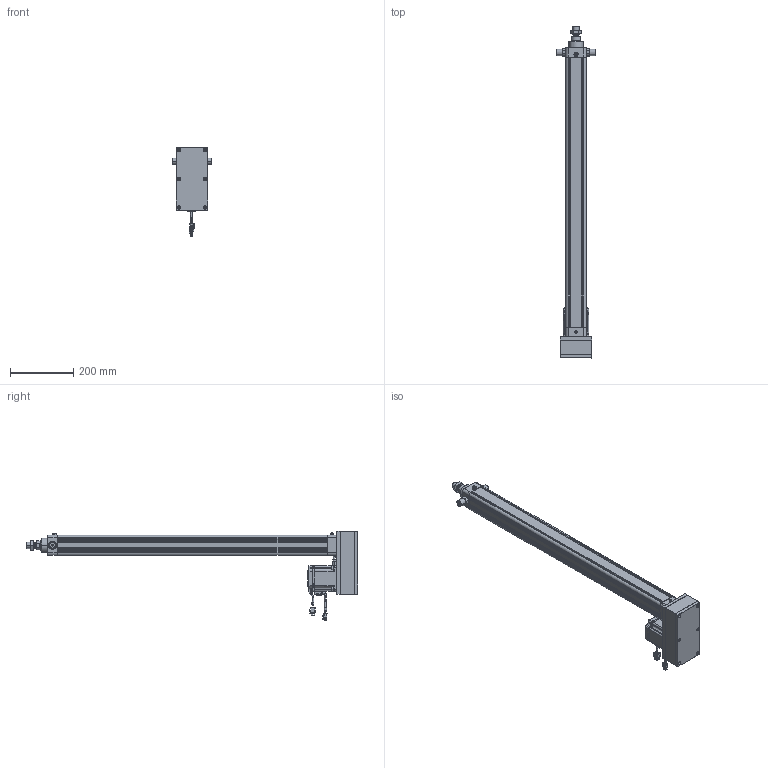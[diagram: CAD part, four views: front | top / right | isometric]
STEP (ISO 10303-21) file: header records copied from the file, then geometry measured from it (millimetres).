
FILE_DESCRIPTION((''),'2;1');
FILE_NAME('HE50-D-100-X1_ASM','2020-05-23T',('ASUS20200'),(''),'CREO PARAMETRIC BY PTC INC, 2014190','CREO PARAMETRIC BY PTC INC, 2014190','');
FILE_SCHEMA(('CONFIG_CONTROL_DESIGN'));
Products named in the file (30): HE50-D-P-001-X1; HE50-D-P-002-X1; HE50-D-P-003-X1; 6301ZZ; LGLM-M8-22; SLM-01; YZ-M6X1; HE50-P-010-X1-400W; _MHMF082L1A2; _CABLE_MOTOR_BOTTOM_05; _CABLE_MOTOR_TOP_05; _MOTOR_CONNECTOR_2; _CABLE_BRAKE_BOTTOM_05; _CABLE_BRAKE_TOP_05; _MHMF_CONNECTOR_9_PIN_A6; MHMF082L1A2M2_1_ASM; TD-6; M6X25; LM-M6X1; JX6X6X20; M6X25-DS; LM-M6-15; HE50-P-012-X1; HE50-P-013-X1; M6X60; HE50-TC; HE50-D-P-005-X1; HE50-D-P-004-X1; HE50-D-P-008-X1; HE50-D-100-X1_ASM
Assembly tree (52 placements, depth 3):
  HE50-D-100-X1_ASM
    HE50-D-P-001-X1
    HE50-D-P-002-X1
    HE50-D-P-003-X1
    6301ZZ
    LGLM-M8-22  x8
    SLM-01
    YZ-M6X1
    HE50-P-010-X1-400W
    MHMF082L1A2M2_1_ASM
      _MHMF082L1A2
      _CABLE_MOTOR_BOTTOM_05
      _CABLE_MOTOR_TOP_05
      _MOTOR_CONNECTOR_2
      _CABLE_BRAKE_BOTTOM_05
      _CABLE_BRAKE_TOP_05
      _MHMF_CONNECTOR_9_PIN_A6
    TD-6  x4
    M6X25  x4
    LM-M6X1  x5
    JX6X6X20
    M6X25-DS
    LM-M6-15
    HE50-P-012-X1
    HE50-P-013-X1
    M6X60  x6
    HE50-TC  x2
    HE50-D-P-005-X1
    HE50-D-P-004-X1
    HE50-D-P-008-X1
Bounding box: 124 x 1048.5 x 283.65 mm (x, y, z)
Volume: 2906969.9 mm3; surface area: 841475 mm2
Topology: 51 solids, 83 shells, 3067 faces, 7380 edges, 4563 vertices
Faces by surface type: plane 1314, cylinder 831, cone 739, torus 138, sphere 42, bspline 3
Entity records: 74324 total; most frequent: CARTESIAN_POINT 14368, DIRECTION 13047, ORIENTED_EDGE 11840, EDGE_CURVE 5980, AXIS2_PLACEMENT_3D 4847, VERTEX_POINT 3729, VECTOR 3353, LINE 3353
